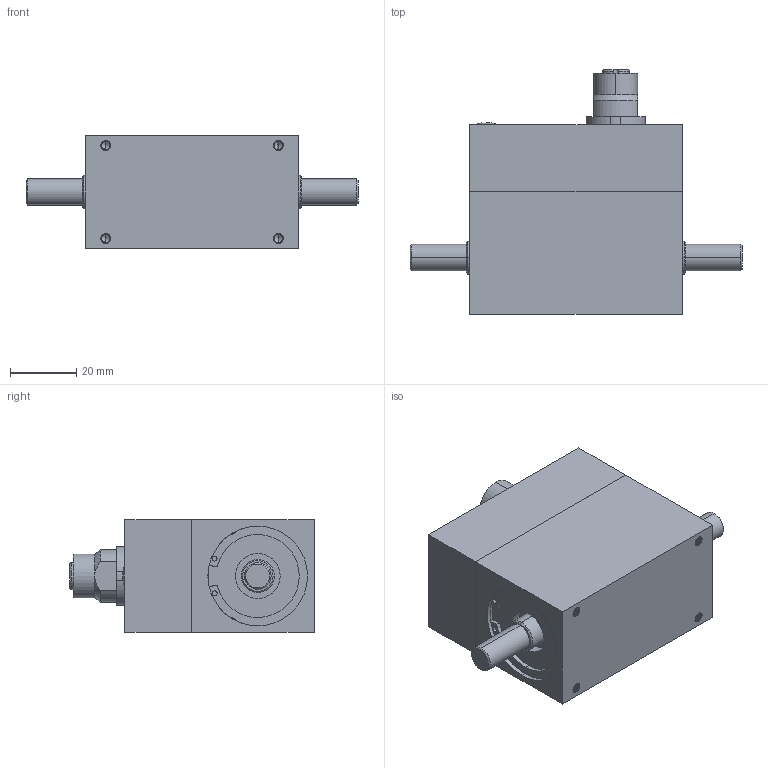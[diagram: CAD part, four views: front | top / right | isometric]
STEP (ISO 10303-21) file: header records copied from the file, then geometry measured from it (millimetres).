
FILE_DESCRIPTION (( 'STEP AP203' ), '1' );
FILE_NAME ('FYTK-眒瞄勤.STEP', '2024-07-17T08:53:30', ( '' ), ( '' ), 'SwSTEP 2.0', 'SolidWorks 2019', '' );
FILE_SCHEMA (( 'CONFIG_CONTROL_DESIGN' ));
Length unit declared in the file: millimetre
Products named in the file (1): FYTK-眒瞄勤
Bounding box: 100 x 73.6 x 34 mm (x, y, z)
Volume: 124775.6 mm3; surface area: 20496.9 mm2
Topology: 2 solids, 2 shells, 380 faces, 962 edges, 619 vertices
Faces by surface type: cylinder 221, plane 111, cone 31, bspline 12, torus 4, sphere 1
Entity records: 19767 total; most frequent: CARTESIAN_POINT 11207, ORIENTED_EDGE 1902, DIRECTION 1666, EDGE_CURVE 951, AXIS2_PLACEMENT_3D 624, VERTEX_POINT 617, EDGE_LOOP 422, LINE 418
